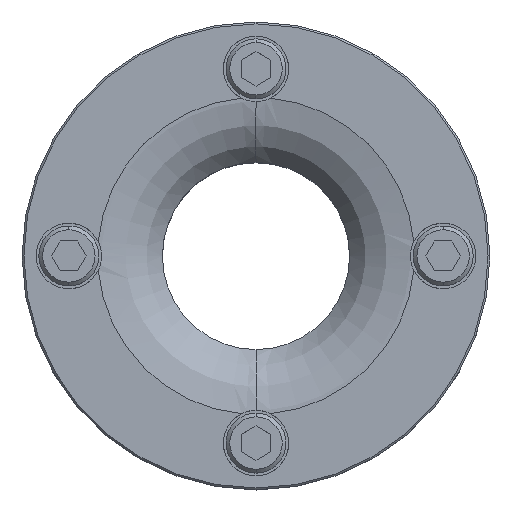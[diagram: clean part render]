
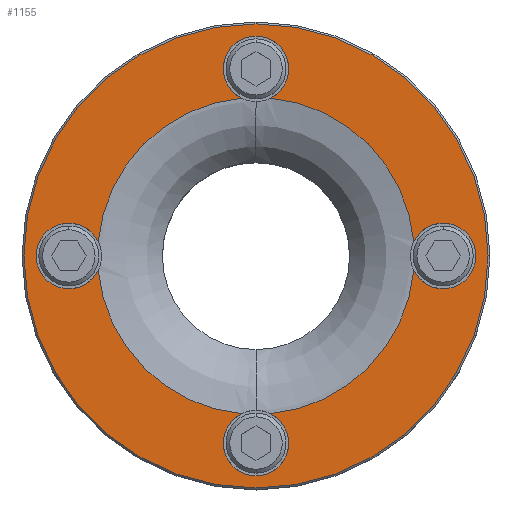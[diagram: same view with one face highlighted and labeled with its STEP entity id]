
A CAD part, top view. The second image highlights one B-rep face of the part: STEP entity #1155.
In plain terms, the highlighted planar face has unit normal (0, 0, 1).
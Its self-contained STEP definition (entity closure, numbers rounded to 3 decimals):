
#126=VERTEX_POINT(' ',#127);
#127=CARTESIAN_POINT('',(0.,-62.,20.));
#132=VERTEX_POINT(' ',#133);
#133=CARTESIAN_POINT('',(0.,62.,20.));
#174=VERTEX_POINT(' ',#175);
#175=CARTESIAN_POINT('',(3.854,42.145,20.));
#180=VERTEX_POINT(' ',#181);
#181=CARTESIAN_POINT('',(3.854,-42.145,20.));
#182=VERTEX_POINT(' ',#183);
#183=CARTESIAN_POINT('',(42.145,-3.854,20.));
#184=VERTEX_POINT(' ',#185);
#185=CARTESIAN_POINT('',(42.145,3.854,20.));
#186=VERTEX_POINT(' ',#187);
#187=CARTESIAN_POINT('',(-42.145,-3.854,20.));
#188=VERTEX_POINT(' ',#189);
#189=CARTESIAN_POINT('',(-50.,-8.75,20.));
#190=VERTEX_POINT(' ',#191);
#191=CARTESIAN_POINT('',(-50.,8.75,20.));
#192=VERTEX_POINT(' ',#193);
#193=CARTESIAN_POINT('',(-42.145,3.854,20.));
#194=VERTEX_POINT(' ',#195);
#195=CARTESIAN_POINT('',(-3.854,42.145,20.));
#196=VERTEX_POINT(' ',#197);
#197=CARTESIAN_POINT('',(0.,58.75,20.));
#198=VERTEX_POINT(' ',#199);
#199=CARTESIAN_POINT('',(50.,8.75,20.));
#200=VERTEX_POINT(' ',#201);
#201=CARTESIAN_POINT('',(50.,-8.75,20.));
#202=VERTEX_POINT(' ',#203);
#203=CARTESIAN_POINT('',(0.,-58.75,20.));
#204=VERTEX_POINT(' ',#205);
#205=CARTESIAN_POINT('',(-3.854,-42.145,20.));
#270=CIRCLE('',#271,62.);
#271=AXIS2_PLACEMENT_3D('',#272,#273,#274);
#272=CARTESIAN_POINT('',(0.,0.,20.));
#273=DIRECTION('',(0.,0.,-1.));
#274=DIRECTION('',(-1.,0.,0.));
#275=EDGE_CURVE(' ',#132,#126,#270,.T.);
#276=CIRCLE('',#277,62.);
#277=AXIS2_PLACEMENT_3D('',#278,#279,#280);
#278=CARTESIAN_POINT('',(0.,0.,20.));
#279=DIRECTION('',(0.,0.,-1.));
#280=DIRECTION('',(1.,0.,0.));
#281=EDGE_CURVE(' ',#126,#132,#276,.T.);
#518=CIRCLE('',#519,42.321);
#519=AXIS2_PLACEMENT_3D('',#520,#521,#522);
#520=CARTESIAN_POINT('',(0.,0.,20.));
#521=DIRECTION('',(0.,0.,-1.));
#522=DIRECTION('',(-1.,0.,0.));
#523=EDGE_CURVE(' ',#182,#180,#518,.T.);
#533=CIRCLE('',#534,42.321);
#534=AXIS2_PLACEMENT_3D('',#535,#536,#537);
#535=CARTESIAN_POINT('',(0.,0.,20.));
#536=DIRECTION('',(0.,0.,-1.));
#537=DIRECTION('',(-1.,0.,0.));
#538=EDGE_CURVE(' ',#174,#184,#533,.T.);
#539=CIRCLE('',#540,8.75);
#540=AXIS2_PLACEMENT_3D('',#541,#542,#543);
#541=CARTESIAN_POINT('',(-50.,0.,20.));
#542=DIRECTION('',(0.,0.,-1.));
#543=DIRECTION('',(-1.,0.,0.));
#544=EDGE_CURVE(' ',#188,#186,#539,.F.);
#545=CIRCLE('',#546,8.75);
#546=AXIS2_PLACEMENT_3D('',#547,#548,#549);
#547=CARTESIAN_POINT('',(-50.,0.,20.));
#548=DIRECTION('',(0.,0.,-1.));
#549=DIRECTION('',(1.,0.,0.));
#550=EDGE_CURVE(' ',#190,#188,#545,.F.);
#551=CIRCLE('',#552,8.75);
#552=AXIS2_PLACEMENT_3D('',#553,#554,#555);
#553=CARTESIAN_POINT('',(-50.,0.,20.));
#554=DIRECTION('',(0.,0.,-1.));
#555=DIRECTION('',(-1.,0.,0.));
#556=EDGE_CURVE(' ',#192,#190,#551,.F.);
#557=CIRCLE('',#558,42.321);
#558=AXIS2_PLACEMENT_3D('',#559,#560,#561);
#559=CARTESIAN_POINT('',(0.,0.,20.));
#560=DIRECTION('',(0.,0.,-1.));
#561=DIRECTION('',(1.,0.,0.));
#562=EDGE_CURVE(' ',#192,#194,#557,.T.);
#563=CIRCLE('',#564,8.75);
#564=AXIS2_PLACEMENT_3D('',#565,#566,#567);
#565=CARTESIAN_POINT('',(0.,50.,20.));
#566=DIRECTION('',(0.,0.,-1.));
#567=DIRECTION('',(1.,0.,0.));
#568=EDGE_CURVE(' ',#196,#194,#563,.F.);
#569=CIRCLE('',#570,8.75);
#570=AXIS2_PLACEMENT_3D('',#571,#572,#573);
#571=CARTESIAN_POINT('',(0.,50.,20.));
#572=DIRECTION('',(0.,0.,-1.));
#573=DIRECTION('',(-1.,0.,0.));
#574=EDGE_CURVE(' ',#174,#196,#569,.F.);
#575=CIRCLE('',#576,8.75);
#576=AXIS2_PLACEMENT_3D('',#577,#578,#579);
#577=CARTESIAN_POINT('',(50.,0.,20.));
#578=DIRECTION('',(0.,0.,-1.));
#579=DIRECTION('',(1.,0.,0.));
#580=EDGE_CURVE(' ',#198,#184,#575,.F.);
#581=CIRCLE('',#582,8.75);
#582=AXIS2_PLACEMENT_3D('',#583,#584,#585);
#583=CARTESIAN_POINT('',(50.,0.,20.));
#584=DIRECTION('',(0.,0.,-1.));
#585=DIRECTION('',(-1.,0.,0.));
#586=EDGE_CURVE(' ',#200,#198,#581,.F.);
#587=CIRCLE('',#588,8.75);
#588=AXIS2_PLACEMENT_3D('',#589,#590,#591);
#589=CARTESIAN_POINT('',(50.,0.,20.));
#590=DIRECTION('',(0.,0.,-1.));
#591=DIRECTION('',(1.,0.,0.));
#592=EDGE_CURVE(' ',#182,#200,#587,.F.);
#593=CIRCLE('',#594,8.75);
#594=AXIS2_PLACEMENT_3D('',#595,#596,#597);
#595=CARTESIAN_POINT('',(0.,-50.,20.));
#596=DIRECTION('',(0.,0.,-1.));
#597=DIRECTION('',(-1.,0.,0.));
#598=EDGE_CURVE(' ',#202,#180,#593,.F.);
#599=CIRCLE('',#600,8.75);
#600=AXIS2_PLACEMENT_3D('',#601,#602,#603);
#601=CARTESIAN_POINT('',(0.,-50.,20.));
#602=DIRECTION('',(0.,0.,-1.));
#603=DIRECTION('',(1.,0.,0.));
#604=EDGE_CURVE(' ',#204,#202,#599,.F.);
#605=CIRCLE('',#606,42.321);
#606=AXIS2_PLACEMENT_3D('',#607,#608,#609);
#607=CARTESIAN_POINT('',(0.,0.,20.));
#608=DIRECTION('',(0.,0.,-1.));
#609=DIRECTION('',(1.,0.,0.));
#610=EDGE_CURVE(' ',#204,#186,#605,.T.);
#1130=ORIENTED_EDGE('',*,*,#275,.F.);
#1131=ORIENTED_EDGE('',*,*,#281,.F.);
#1132=EDGE_LOOP('',(#1130,#1131));
#1133=FACE_OUTER_BOUND('',#1132,.T.);
#1134=ORIENTED_EDGE('',*,*,#544,.F.);
#1135=ORIENTED_EDGE('',*,*,#550,.F.);
#1136=ORIENTED_EDGE('',*,*,#556,.F.);
#1137=ORIENTED_EDGE('',*,*,#562,.T.);
#1138=ORIENTED_EDGE('',*,*,#568,.F.);
#1139=ORIENTED_EDGE('',*,*,#574,.F.);
#1140=ORIENTED_EDGE('',*,*,#538,.T.);
#1141=ORIENTED_EDGE('',*,*,#580,.F.);
#1142=ORIENTED_EDGE('',*,*,#586,.F.);
#1143=ORIENTED_EDGE('',*,*,#592,.F.);
#1144=ORIENTED_EDGE('',*,*,#523,.T.);
#1145=ORIENTED_EDGE('',*,*,#598,.F.);
#1146=ORIENTED_EDGE('',*,*,#604,.F.);
#1147=ORIENTED_EDGE('',*,*,#610,.T.);
#1148=EDGE_LOOP('',(#1134,#1135,#1136,#1137,#1138,#1139,#1140,#1141,#1142,#1143,#1144,#1145,#1146,#1147));
#1149=FACE_BOUND('',#1148,.T.);
#1150=PLANE('',#1151);
#1151=AXIS2_PLACEMENT_3D('',#1152,#1153,#1154);
#1152=CARTESIAN_POINT('',(0.,0.,20.));
#1153=DIRECTION('',(0.,0.,1.));
#1154=DIRECTION('',(-1.,0.,0.));
#1155=ADVANCED_FACE('',(#1133,#1149),#1150,.T.);
